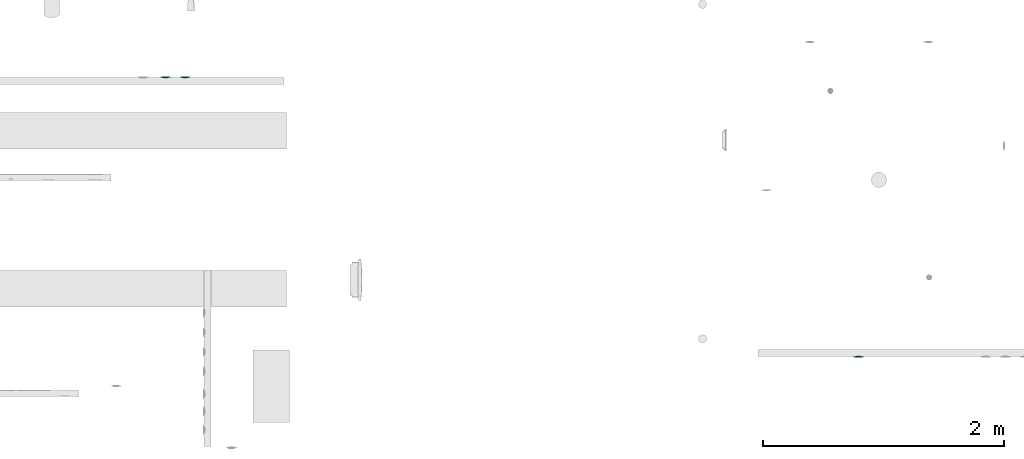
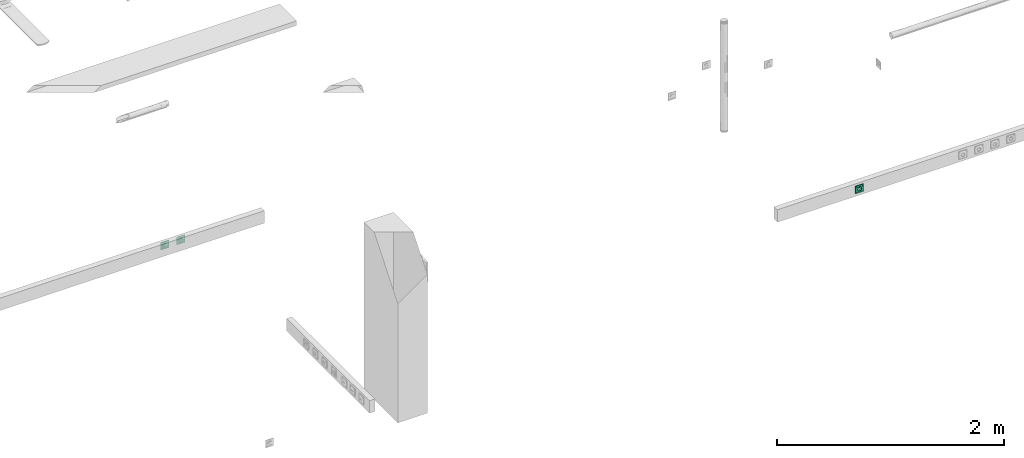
# One storey, part 77 of 166: 3 flow terminals.
"""IFC2X3 building model written with IfcOpenShell, lengths in metres."""

import ifcopenshell
import ifcopenshell.guid

model = None  # the IFC model being written
_history = None  # IfcOwnerHistory: only IFC2X3 demands one
_inside = {}  # id of a spatial element -> (the spatial element, [elements in it])
_under = {}  # id of a project, library or spatial element -> (it, [spatial elements below it])
_declared = {}  # id of a project -> (the project, [libraries it declares])
_typed = {}  # id of a type object -> (the type object, [elements of that type])
_made_of = {}  # id of a material, layer set ... -> (it, [elements and type objects made of it])


def new_model(schema):
    """Start an empty IFC model of exactly this schema.

    Asked for "IFC4X3", IfcOpenShell would pick the latest addendum, in which some entities
    have other attributes; the version numbers below select the first issue.
    IFC2X3 requires an IfcOwnerHistory on every rooted entity: one is made here for all.
    """
    global model, _history
    if schema == "IFC4X3":
        model = ifcopenshell.file(schema_version=(4, 3, 0, 0))
    else:
        model = ifcopenshell.file(schema=schema)
    _inside.clear()
    _under.clear()
    _declared.clear()
    _typed.clear()
    _made_of.clear()
    _history = None
    if model.schema == "IFC2X3":
        org = make("IfcOrganization", Name="unknown")
        user = make(
            "IfcPersonAndOrganization",
            ThePerson=make("IfcPerson", FamilyName="unknown"),
            TheOrganization=org,
        )
        app = make(
            "IfcApplication",
            ApplicationDeveloper=org,
            Version="unknown",
            ApplicationFullName="unknown",
            ApplicationIdentifier="unknown",
        )
        _history = make(
            "IfcOwnerHistory",
            OwningUser=user,
            OwningApplication=app,
            ChangeAction="ADDED",
            CreationDate=0,
        )
    return model


def make(cls, **values):
    """One entity of the class cls with the attributes given. An attribute that is None is left unset."""
    return model.create_entity(
        cls, **{name: value for name, value in values.items() if value is not None}
    )


def entity(cls, *values):
    """Any entity or typed value of the class cls, its attributes in the order of the schema. None: left unset."""
    e = model.create_entity(cls)
    for i, value in enumerate(values):
        if value is not None:
            e[i] = value
    return e


def rooted(cls, **values):
    """An entity with a GlobalId (a new one), such as an element, a storey or a relation."""
    return make(cls, GlobalId=ifcopenshell.guid.new(), OwnerHistory=_history, **values)


def si_unit(unit_type, name, prefix=None):
    """IfcSIUnit, for example si_unit("LENGTHUNIT", "METRE", prefix="MILLI")."""
    return make("IfcSIUnit", UnitType=unit_type, Prefix=prefix, Name=name)


def converted_unit(unit_type, name, factor, base, dimensions=None, offset=None):
    """IfcConversionBasedUnit, such as the inch: factor (a typed value) times the base unit."""
    return make(
        "IfcConversionBasedUnit"
        if offset is None
        else "IfcConversionBasedUnitWithOffset",
        ConversionOffset=offset,
        Dimensions=None
        if dimensions is None
        else entity("IfcDimensionalExponents", *dimensions),
        UnitType=unit_type,
        Name=name,
        ConversionFactor=make(
            "IfcMeasureWithUnit", ValueComponent=factor, UnitComponent=base
        ),
    )


def derived_unit(unit_type, elements):
    """IfcDerivedUnit: a product of units, each with its exponent."""
    return make(
        "IfcDerivedUnit",
        Elements=[
            make("IfcDerivedUnitElement", Unit=unit, Exponent=power)
            for unit, power in elements
        ],
        UnitType=unit_type,
    )


def assignment(units):
    """IfcUnitAssignment: the units of a project."""
    return None if units is None else make("IfcUnitAssignment", Units=units)


def point(xyz):
    """IfcCartesianPoint."""
    return None if xyz is None else make("IfcCartesianPoint", Coordinates=xyz)


def direction(xyz):
    """IfcDirection."""
    return None if xyz is None else make("IfcDirection", DirectionRatios=xyz)


def frame(location, z_axis=None, x_axis=None):
    """IfcAxis2Placement3D, a coordinate frame: its origin and axes. An axis left out is left unset."""
    return make(
        "IfcAxis2Placement3D",
        Location=point(location),
        Axis=direction(z_axis),
        RefDirection=direction(x_axis),
    )


def origin():
    """The frame at (0, 0, 0) with its axes left unset."""
    return frame((0.0, 0.0, 0.0))


def place(relative_to, where):
    """IfcLocalPlacement: puts the frame where relative to a parent placement (None: the world)."""
    return make(
        "IfcLocalPlacement", PlacementRelTo=relative_to, RelativePlacement=where
    )


def context(
    kind, dimensions, precision=None, world=None, true_north=None, identifier=None
):
    """IfcGeometricRepresentationContext, for example the 3D "Model" context."""
    return make(
        "IfcGeometricRepresentationContext",
        ContextIdentifier=identifier,
        ContextType=kind,
        CoordinateSpaceDimension=dimensions,
        Precision=precision,
        WorldCoordinateSystem=world,
        TrueNorth=true_north,
    )


def subcontext(parent, identifier, kind, view, scale=None):
    """IfcGeometricRepresentationSubContext, for example "Body" below "Model"."""
    return make(
        "IfcGeometricRepresentationSubContext",
        ContextIdentifier=identifier,
        ContextType=kind,
        ParentContext=parent,
        TargetScale=scale,
        TargetView=view,
    )


def project(units=None, contexts=None):
    """IfcProject with its units and contexts."""
    return rooted(
        "IfcProject",
        Name="project",
        RepresentationContexts=contexts,
        UnitsInContext=assignment(units),
    )


def spatial(cls, under=None, at=None, **own):
    """A site, building, storey or space (cls), placed at a placement, below another one or the project."""
    s = rooted(cls, ObjectPlacement=at, **own)
    if under is not None:
        _under.setdefault(under.id(), (under, []))[1].append(s)
    return s


def faces_of(points, faces, orient=None, outer=None):
    """IfcFace entities. A face is a list of loops; a loop is a list of indices into points, from 0.

    orient and outer hold one flag for each loop. By default every Orientation is true, the
    first loop of a face is its IfcFaceOuterBound and the others are IfcFaceBound.
    """
    made = []
    for i, loops in enumerate(faces):
        bounds = []
        for j, loop in enumerate(loops):
            is_outer = j == 0 if outer is None else outer[i][j]
            bounds.append(
                make(
                    "IfcFaceOuterBound" if is_outer else "IfcFaceBound",
                    Bound=make("IfcPolyLoop", Polygon=[points[k] for k in loop]),
                    Orientation=True if orient is None else orient[i][j],
                )
            )
        made.append(make("IfcFace", Bounds=bounds))
    return made


def face_set(faces, orient=None, outer=None):
    """The faces of one IfcConnectedFaceSet. surface_model builds it on its shared points."""
    return ("IfcConnectedFaceSet", faces, orient, outer)


def surface_model(cls, points, shells):
    """IfcFaceBasedSurfaceModel or IfcShellBasedSurfaceModel (cls): surfaces that need not close."""
    shared = [point(p) for p in points]
    made = [make(c, CfsFaces=faces_of(shared, fs, o, b)) for c, fs, o, b in shells]
    if cls == "IfcFaceBasedSurfaceModel":
        return make(cls, FbsmFaces=made)
    return make(cls, SbsmBoundary=made)


def shape(context_of_items, identifier, shape_type, items):
    """IfcShapeRepresentation: the items that make up one representation, for example the "Body"."""
    return make(
        "IfcShapeRepresentation",
        ContextOfItems=context_of_items,
        RepresentationIdentifier=identifier,
        RepresentationType=shape_type,
        Items=items,
    )


def source(mapping_origin, context_of_items, identifier, shape_type, items):
    """IfcRepresentationMap: a shape defined once, which mapped items show again and again."""
    return make(
        "IfcRepresentationMap",
        MappingOrigin=mapping_origin,
        MappedRepresentation=shape(context_of_items, identifier, shape_type, items),
    )


def transform(
    local_origin,
    x_axis=None,
    y_axis=None,
    z_axis=None,
    scale=None,
    scale2=None,
    scale3=None,
    uniform=True,
):
    """IfcCartesianTransformationOperator3D, or its non-uniform kind. x_axis, y_axis, z_axis: its Axis1, 2, 3."""
    if uniform:
        return make(
            "IfcCartesianTransformationOperator3D",
            Axis1=direction(x_axis),
            Axis2=direction(y_axis),
            LocalOrigin=point(local_origin),
            Scale=scale,
            Axis3=direction(z_axis),
        )
    return make(
        "IfcCartesianTransformationOperator3DnonUniform",
        Axis1=direction(x_axis),
        Axis2=direction(y_axis),
        LocalOrigin=point(local_origin),
        Scale=scale,
        Axis3=direction(z_axis),
        Scale2=scale2,
        Scale3=scale3,
    )


def mapped(mapping_source, mapping_target):
    """IfcMappedItem: shows the shape of a source again, moved by a transform."""
    return make(
        "IfcMappedItem", MappingSource=mapping_source, MappingTarget=mapping_target
    )


def made_of(thing, what):
    """Note that an element or type object is made of a material, layer set ...; save() writes the relation."""
    if what is not None:
        _made_of.setdefault(what.id(), (what, []))[1].append(thing)
    return thing


def type_object(cls, material=None, **own):
    """A type object (cls), such as IfcWallType, which elements share."""
    return made_of(rooted(cls, **own), material)


def type_shapes(of_type, sources):
    """Give a type object the sources (RepresentationMaps) that its elements show as mapped items."""
    of_type.RepresentationMaps = sources


def element(
    cls,
    number,
    at=None,
    inside=None,
    cuts=None,
    type_object=None,
    material=None,
    context=None,
    identifier="Body",
    shape_type=None,
    held_by="IfcProductDefinitionShape",
    body=None,
    shapes=None,
    **own,
):
    """One element of the class cls, such as IfcWall. Its Tag is "e" and its number.

    at: its placement. inside: the storey or other place that contains it. cuts: it is an
    opening in that element (IfcRelVoidsElement). A single representation is given by context,
    identifier, shape_type and body (its items); several are given by shapes. held_by: the class
    of the entity that holds the representations. save() writes the other relations.
    """
    e = rooted(cls, Tag="e%d" % number, ObjectPlacement=at, **own)
    if body is not None:
        shapes = [shape(context, identifier, shape_type, body)]
    if shapes is not None:
        e.Representation = make(held_by, Representations=shapes)
    if inside is not None:
        _inside.setdefault(inside.id(), (inside, []))[1].append(e)
    if cuts is not None:
        rooted(
            "IfcRelVoidsElement", RelatingBuildingElement=cuts, RelatedOpeningElement=e
        )
    if type_object is not None:
        _typed.setdefault(type_object.id(), (type_object, []))[1].append(e)
    return made_of(e, material)


def aggregate(whole, parts):
    """IfcRelAggregates: a whole, such as a stair, and the parts it consists of."""
    return rooted("IfcRelAggregates", RelatingObject=whole, RelatedObjects=parts)


def save(model, path):
    """Write the relations noted so far, then the file.

    IfcRelAggregates (storeys below a building ...), IfcRelContainedInSpatialStructure (elements
    in a storey), IfcRelDefinesByType, IfcRelAssociatesMaterial and IfcRelDeclares: one each for
    every whole, place, type object, material and project.
    """
    for whole, parts in _under.values():
        aggregate(whole, parts)
    for where, things in _inside.values():
        rooted(
            "IfcRelContainedInSpatialStructure",
            RelatedElements=things,
            RelatingStructure=where,
        )
    for kind, things in _typed.values():
        rooted("IfcRelDefinesByType", RelatedObjects=things, RelatingType=kind)
    for what, things in _made_of.values():
        rooted("IfcRelAssociatesMaterial", RelatedObjects=things, RelatingMaterial=what)
    for by, libraries in _declared.values():
        rooted("IfcRelDeclares", RelatingContext=by, RelatedDefinitions=libraries)
    model.write(path)


model = new_model("IFC2X3")

# Units and contexts
model_context = context("Model", 3, precision=1e-05, world=origin(), true_north=direction((6.12303176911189e-17, 1.0)))
body_context = subcontext(model_context, "Body", "Model", "MODEL_VIEW")
ifc_project = project(units=[si_unit("LENGTHUNIT", "METRE"), si_unit("AREAUNIT", "SQUARE_METRE"), si_unit("VOLUMEUNIT", "CUBIC_METRE"), converted_unit("PLANEANGLEUNIT", "DEGREE", entity("IfcRatioMeasure", 0.0174532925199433), si_unit("PLANEANGLEUNIT", "RADIAN"), dimensions=[0, 0, 0, 0, 0, 0, 0]), si_unit("MASSUNIT", "GRAM", prefix="KILO"), derived_unit("MASSDENSITYUNIT", [(si_unit("MASSUNIT", "GRAM", prefix="KILO"), 1), (si_unit("LENGTHUNIT", "METRE"), -3)]), si_unit("TIMEUNIT", "SECOND"), si_unit("FREQUENCYUNIT", "HERTZ"), si_unit("THERMODYNAMICTEMPERATUREUNIT", "DEGREE_CELSIUS"), derived_unit("THERMALTRANSMITTANCEUNIT", [(si_unit("MASSUNIT", "GRAM", prefix="KILO"), 1), (si_unit("THERMODYNAMICTEMPERATUREUNIT", "KELVIN"), -1), (si_unit("TIMEUNIT", "SECOND"), -3)]), derived_unit("VOLUMETRICFLOWRATEUNIT", [(si_unit("LENGTHUNIT", "METRE"), 3), (si_unit("TIMEUNIT", "SECOND"), -1)]), si_unit("ELECTRICCURRENTUNIT", "AMPERE"), si_unit("ELECTRICVOLTAGEUNIT", "VOLT"), si_unit("POWERUNIT", "WATT"), si_unit("FORCEUNIT", "NEWTON"), si_unit("ILLUMINANCEUNIT", "LUX"), si_unit("LUMINOUSFLUXUNIT", "LUMEN"), si_unit("LUMINOUSINTENSITYUNIT", "CANDELA"), derived_unit("USERDEFINED", [(si_unit("MASSUNIT", "GRAM", prefix="KILO"), -1), (si_unit("LENGTHUNIT", "METRE"), -2), (si_unit("TIMEUNIT", "SECOND"), 3), (si_unit("LUMINOUSFLUXUNIT", "LUMEN"), 1)]), derived_unit("LINEARVELOCITYUNIT", [(si_unit("LENGTHUNIT", "METRE"), 1), (si_unit("TIMEUNIT", "SECOND"), -1)]), si_unit("PRESSUREUNIT", "PASCAL"), derived_unit("USERDEFINED", [(si_unit("LENGTHUNIT", "METRE"), -2), (si_unit("MASSUNIT", "GRAM", prefix="KILO"), 1), (si_unit("TIMEUNIT", "SECOND"), -2)])], contexts=[model_context])

# Site, building, storey
site_placement = place(None, origin())
site = spatial("IfcSite", under=ifc_project, at=site_placement, Name="Default", CompositionType="ELEMENT")
building_placement = place(site_placement, origin())
building = spatial("IfcBuilding", under=site, at=building_placement, CompositionType="ELEMENT")
storey_placement = place(building_placement, frame((0.0, 0.0, 4.27)))
storey = spatial("IfcBuildingStorey", under=building, at=storey_placement, Name="01", CompositionType="ELEMENT", Elevation=4.27)

# Flow terminals
light_fixture_type = type_object("IfcLightFixtureType", Name="PC IP20", PredefinedType="NOTDEFINED")
shared_shape = source(origin(), body_context, "Body", "SurfaceModel", [
    surface_model("IfcFaceBasedSurfaceModel", [(-0.00225000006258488, 0.0127499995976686, 0.00949633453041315), (0.0, 0.0104999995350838, 0.00949633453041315), (0.0, 0.0115376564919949, 0.0101656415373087), (0.0, 0.0139623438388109, 0.0101656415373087), (0.0, 0.0144589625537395, 0.00984531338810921), (0.0, 0.0121178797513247, 0.0102778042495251), (0.0, 0.0133821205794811, 0.0102778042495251), (0.0, 0.0127499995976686, 0.010399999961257), (0.0, 0.0149999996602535, 0.00949633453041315), (0.00225000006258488, 0.0127499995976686, 0.00949633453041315), (0.0, 0.0110410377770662, 0.00984531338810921), (0.0, 0.0127499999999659, 0.00949633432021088), (0.00225000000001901, 0.0127499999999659, 0.00949633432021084), (0.00217333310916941, 0.0121676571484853, 0.00949633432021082), (0.00194855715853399, 0.0116249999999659, 0.00949633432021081), (0.00159099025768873, 0.0111590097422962, 0.00949633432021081), (0.001125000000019, 0.010801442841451, 0.00949633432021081), (0.00058234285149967, 0.0105766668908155, 0.00949633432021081), (0.0, 0.0104999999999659, 0.00949633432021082), (-0.000582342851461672, 0.0105766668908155, 0.00949633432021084), (-0.001124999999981, 0.010801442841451, 0.00949633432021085), (-0.00159099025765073, 0.0111590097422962, 0.00949633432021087), (-0.00194855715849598, 0.011624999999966, 0.00949633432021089), (-0.0021733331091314, 0.0121676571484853, 0.00949633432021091), (-0.00224999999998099, 0.012749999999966, 0.00949633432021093), (-0.00217333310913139, 0.0133323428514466, 0.00949633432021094), (-0.00194855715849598, 0.013874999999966, 0.00949633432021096), (-0.00159099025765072, 0.0143409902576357, 0.00949633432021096), (-0.00112499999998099, 0.0146985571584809, 0.00949633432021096), (-0.00058234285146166, 0.0149233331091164, 0.00949633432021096), (0.0, 0.0149999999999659, 0.00949633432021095), (0.000582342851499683, 0.0149233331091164, 0.00949633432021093), (0.00112500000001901, 0.0146985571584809, 0.00949633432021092), (0.00159099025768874, 0.0143409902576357, 0.00949633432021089), (0.001948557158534, 0.0138749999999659, 0.00949633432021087), (0.00217333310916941, 0.0133323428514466, 0.00949633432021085), (0.00225000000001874, 0.0127499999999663, -0.00360000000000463), (0.00217333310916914, 0.0121676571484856, -0.00360000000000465), (0.00194855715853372, 0.0116249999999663, -0.00360000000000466), (0.00159099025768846, 0.0111590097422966, -0.00360000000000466), (0.00112500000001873, 0.0108014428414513, -0.00360000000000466), (0.000582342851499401, 0.0105766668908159, -0.00360000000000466), (0.0, 0.0104999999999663, -0.00360000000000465), (-0.000582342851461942, 0.0105766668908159, -0.00360000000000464), (-0.00112499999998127, 0.0108014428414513, -0.00360000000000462), (-0.001590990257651, 0.0111590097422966, -0.0036000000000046), (-0.00194855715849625, 0.0116249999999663, -0.00360000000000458), (-0.00217333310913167, 0.0121676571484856, -0.00360000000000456), (-0.00224999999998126, 0.0127499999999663, -0.00360000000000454), (-0.00217333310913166, 0.013332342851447, -0.00360000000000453), (-0.00194855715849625, 0.0138749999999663, -0.00360000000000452), (-0.00159099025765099, 0.014340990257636, -0.00360000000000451), (-0.00112499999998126, 0.0146985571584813, -0.00360000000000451), (-0.000582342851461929, 0.0149233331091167, -0.00360000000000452), (0.0, 0.0149999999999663, -0.00360000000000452), (0.000582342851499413, 0.0149233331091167, -0.00360000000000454), (0.00112500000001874, 0.0146985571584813, -0.00360000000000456), (0.00159099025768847, 0.014340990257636, -0.00360000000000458), (0.00194855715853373, 0.0138749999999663, -0.0036000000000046), (0.00217333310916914, 0.013332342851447, -0.00360000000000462), (0.0270000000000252, 0.026999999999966, 0.0113999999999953), (-0.0269999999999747, 0.026999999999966, 0.0113999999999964), (-0.0269999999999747, -0.0270000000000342, 0.0113999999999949), (0.0270000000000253, -0.0270000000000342, 0.0113999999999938), (-0.0199999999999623, 0.0, 0.0113999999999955), (-0.0193185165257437, -0.00517638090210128, 0.0113999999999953), (-0.0173205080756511, -0.0100000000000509, 0.0113999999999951), (-0.0141421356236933, -0.0141421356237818, 0.011399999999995), (-0.00999999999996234, -0.0173205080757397, 0.0113999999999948), (-0.00517638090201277, -0.0193185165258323, 0.0113999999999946), (0.0, -0.0200000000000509, 0.0113999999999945), (0.00517638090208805, -0.0193185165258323, 0.0113999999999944), (0.0100000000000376, -0.0173205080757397, 0.0113999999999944), (0.0141421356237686, -0.0141421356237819, 0.0113999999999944), (0.0173205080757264, -0.010000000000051, 0.0113999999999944), (0.0193185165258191, -0.00517638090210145, 0.0113999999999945), (0.0200000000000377, 0.0, 0.0113999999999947), (0.0193185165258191, 0.00517638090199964, 0.0113999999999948), (0.0173205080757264, 0.0099999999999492, 0.011399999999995), (0.0141421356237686, 0.0141421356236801, 0.0113999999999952), (0.0100000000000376, 0.0173205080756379, 0.0113999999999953), (0.00517638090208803, 0.0193185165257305, 0.0113999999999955), (0.0, 0.0199999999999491, 0.0113999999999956), (-0.00517638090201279, 0.0193185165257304, 0.0113999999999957), (-0.00999999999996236, 0.0173205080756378, 0.0113999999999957), (-0.0141421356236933, 0.01414213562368, 0.0113999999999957), (-0.0173205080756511, 0.00999999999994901, 0.0113999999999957), (-0.0193185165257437, 0.00517638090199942, 0.0113999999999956), (0.0270000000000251, 0.0269999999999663, 0.00199999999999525), (0.0270000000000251, -0.0270000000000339, 0.00199999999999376), (-0.0269999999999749, -0.0270000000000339, 0.00199999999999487), (-0.0269999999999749, 0.0269999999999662, 0.00199999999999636), (0.0210000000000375, 0.0, 0.00199999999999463), (0.0202844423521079, -0.00543519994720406, 0.00199999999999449), (0.0181865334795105, -0.0105000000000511, 0.0019999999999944), (0.0148492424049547, -0.0148492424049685, 0.00199999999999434), (0.0105000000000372, -0.0181865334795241, 0.00199999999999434), (0.0054351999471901, -0.0202844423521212, 0.00199999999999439), (0.0, -0.0210000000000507, 0.00199999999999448), (-0.00543519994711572, -0.020284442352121, 0.00199999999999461), (-0.0104999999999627, -0.0181865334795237, 0.00199999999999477), (-0.0148492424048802, -0.014849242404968, 0.00199999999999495), (-0.0181865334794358, -0.0105000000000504, 0.00199999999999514), (-0.020284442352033, -0.00543519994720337, 0.00199999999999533), (-0.0209999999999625, 0.0, 0.00199999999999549), (-0.0202844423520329, 0.0054351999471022, 0.00199999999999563), (-0.0181865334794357, 0.0104999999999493, 0.00199999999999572), (-0.01484924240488, 0.0148492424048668, 0.00199999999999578), (-0.0104999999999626, 0.0181865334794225, 0.00199999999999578), (-0.00543519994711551, 0.0202844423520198, 0.00199999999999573), (0.0, 0.0209999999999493, 0.00199999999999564), (0.00543519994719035, 0.0202844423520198, 0.00199999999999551), (0.0105000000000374, 0.0181865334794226, 0.00199999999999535), (0.0148492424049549, 0.0148492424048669, 0.00199999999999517), (0.0181865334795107, 0.0104999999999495, 0.00199999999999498), (0.0202844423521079, 0.00543519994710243, 0.00199999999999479), (0.0200000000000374, 0.0, -0.00360000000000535), (0.0193185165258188, -0.00517638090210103, -0.00360000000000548), (0.0173205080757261, -0.0100000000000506, -0.00360000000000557), (0.0141421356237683, -0.0141421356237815, -0.00360000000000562), (0.0100000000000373, -0.0173205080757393, -0.00360000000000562), (0.00517638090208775, -0.0193185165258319, -0.00360000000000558), (0.0, -0.0200000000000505, -0.00360000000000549), (-0.00517638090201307, -0.0193185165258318, -0.00360000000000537), (-0.00999999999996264, -0.0173205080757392, -0.00360000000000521), (-0.0141421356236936, -0.0141421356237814, -0.00360000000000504), (-0.0173205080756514, -0.0100000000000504, -0.00360000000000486), (-0.019318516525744, -0.00517638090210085, -0.00360000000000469), (-0.0199999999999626, 0.0, -0.00360000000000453), (-0.0193185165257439, 0.00517638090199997, -0.0036000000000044), (-0.0173205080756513, 0.00999999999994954, -0.00360000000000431), (-0.0141421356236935, 0.0141421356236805, -0.00360000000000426), (-0.00999999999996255, 0.0173205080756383, -0.00360000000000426), (-0.00517638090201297, 0.0193185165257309, -0.0036000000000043), (0.0, 0.0199999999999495, -0.00360000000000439), (0.00517638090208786, 0.0193185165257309, -0.00360000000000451), (0.0100000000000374, 0.0173205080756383, -0.00360000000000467), (0.0141421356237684, 0.0141421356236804, -0.00360000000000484), (0.0173205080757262, 0.0099999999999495, -0.00360000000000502), (0.0193185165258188, 0.00517638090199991, -0.00360000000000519), (-0.0123499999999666, 0.0, -0.00360000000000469), (-0.0122562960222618, -0.000711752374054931, -0.00360000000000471), (-0.0119815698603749, -0.00137500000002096, -0.00360000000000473), (-0.0115445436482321, -0.00194454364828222, -0.00360000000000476), (-0.0109749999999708, -0.00238156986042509, -0.00360000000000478), (-0.0103117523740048, -0.00265629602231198, -0.0036000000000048), (-0.00959999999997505, -0.00275000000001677, -0.00360000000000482), (-0.0088882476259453, -0.00265629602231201, -0.00360000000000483), (-0.00822499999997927, -0.00238156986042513, -0.00360000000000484), (-0.00765545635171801, -0.00194454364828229, -0.00360000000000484), (-0.00721843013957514, -0.00137500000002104, -0.00360000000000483), (-0.00694370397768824, -0.000711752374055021, -0.00360000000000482), (-0.00684999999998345, 0.0, -0.0036000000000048), (-0.00694370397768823, 0.000711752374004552, -0.00360000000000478), (-0.00721843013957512, 0.00137499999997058, -0.00360000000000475), (-0.00765545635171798, 0.00194454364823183, -0.00360000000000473), (-0.00822499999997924, 0.00238156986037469, -0.0036000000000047), (-0.00888824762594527, 0.00265629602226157, -0.00360000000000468), (-0.00959999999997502, 0.00274999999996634, -0.00360000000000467), (-0.0103117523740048, 0.00265629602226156, -0.00360000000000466), (-0.0109749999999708, 0.00238156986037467, -0.00360000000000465), (-0.011544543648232, 0.00194454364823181, -0.00360000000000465), (-0.0119815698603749, 0.00137499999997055, -0.00360000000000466), (-0.0122562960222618, 0.000711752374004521, -0.00360000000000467), (0.00685000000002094, 0.0, -0.00360000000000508), (0.0069437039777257, -0.00071175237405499, -0.0036000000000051), (0.00721843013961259, -0.00137500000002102, -0.00360000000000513), (0.00765545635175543, -0.00194454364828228, -0.00360000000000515), (0.00822500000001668, -0.00238156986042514, -0.00360000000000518), (0.00888824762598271, -0.00265629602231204, -0.0036000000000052), (0.00960000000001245, -0.00275000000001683, -0.00360000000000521), (0.0103117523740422, -0.00265629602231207, -0.00360000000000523), (0.0109750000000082, -0.00238156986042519, -0.00360000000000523), (0.0115445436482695, -0.00194454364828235, -0.00360000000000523), (0.0119815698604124, -0.0013750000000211, -0.00360000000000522), (0.0122562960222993, -0.00071175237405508, -0.00360000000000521), (0.012350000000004, 0.0, -0.00360000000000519), (0.0122562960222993, 0.000711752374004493, -0.00360000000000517), (0.0119815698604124, 0.00137499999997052, -0.00360000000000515), (0.0115445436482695, 0.00194454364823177, -0.00360000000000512), (0.0109750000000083, 0.00238156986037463, -0.0036000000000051), (0.0103117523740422, 0.00265629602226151, -0.00360000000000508), (0.00960000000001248, 0.00274999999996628, -0.00360000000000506), (0.00888824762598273, 0.0026562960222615, -0.00360000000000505), (0.0082250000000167, 0.00238156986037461, -0.00360000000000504), (0.00765545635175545, 0.00194454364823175, -0.00360000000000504), (0.0072184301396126, 0.00137499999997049, -0.00360000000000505), (0.00694370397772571, 0.000711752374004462, -0.00360000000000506), (0.0210000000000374, 0.0, -0.00460000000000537), (0.0202844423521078, -0.00543519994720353, -0.00460000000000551), (0.0181865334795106, -0.0105000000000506, -0.0046000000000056), (0.0148492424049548, -0.0148492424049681, -0.00460000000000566), (0.0105000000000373, -0.0181865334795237, -0.00460000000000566), (0.00543519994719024, -0.0202844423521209, -0.00460000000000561), (0.0, -0.0210000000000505, -0.00460000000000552), (-0.00543519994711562, -0.0202844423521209, -0.00460000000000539), (-0.0104999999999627, -0.0181865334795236, -0.00460000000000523), (-0.0148492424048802, -0.0148492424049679, -0.00460000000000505), (-0.0181865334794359, -0.0105000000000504, -0.00460000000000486), (-0.0202844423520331, -0.00543519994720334, -0.00460000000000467), (-0.0209999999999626, 0.0, -0.00460000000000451), (-0.020284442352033, 0.00543519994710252, -0.00460000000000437), (-0.0181865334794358, 0.0104999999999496, -0.00460000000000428), (-0.0148492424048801, 0.0148492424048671, -0.00460000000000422), (-0.0104999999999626, 0.0181865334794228, -0.00460000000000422), (-0.00543519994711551, 0.02028444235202, -0.00460000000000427), (0.0, 0.0209999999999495, -0.00460000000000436), (0.00543519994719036, 0.02028444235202, -0.00460000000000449), (0.0105000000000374, 0.0181865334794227, -0.00460000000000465), (0.0148492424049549, 0.014849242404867, -0.00460000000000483), (0.0181865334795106, 0.0104999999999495, -0.00460000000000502), (0.0202844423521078, 0.00543519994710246, -0.00460000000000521), (-0.00684999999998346, 0.0, -0.0046000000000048), (-0.00694370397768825, 0.000711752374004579, -0.00460000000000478), (-0.00721843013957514, 0.00137499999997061, -0.00460000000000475), (-0.007655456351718, 0.00194454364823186, -0.00460000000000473), (-0.00822499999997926, 0.00238156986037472, -0.0046000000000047), (-0.00888824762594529, 0.0026562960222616, -0.00460000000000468), (-0.00959999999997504, 0.00274999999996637, -0.00460000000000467), (-0.0103117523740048, 0.00265629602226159, -0.00460000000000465), (-0.0109749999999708, 0.0023815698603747, -0.00460000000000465), (-0.0115445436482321, 0.00194454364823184, -0.00460000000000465), (-0.0119815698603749, 0.00137499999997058, -0.00460000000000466), (-0.0122562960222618, 0.000711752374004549, -0.00460000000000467), (-0.0123499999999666, 0.0, -0.00460000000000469), (-0.0122562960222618, -0.000711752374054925, -0.00460000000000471), (-0.0119815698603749, -0.00137500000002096, -0.00460000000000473), (-0.0115445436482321, -0.00194454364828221, -0.00460000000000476), (-0.0109749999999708, -0.00238156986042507, -0.00460000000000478), (-0.0103117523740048, -0.00265629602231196, -0.0046000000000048), (-0.00959999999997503, -0.00275000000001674, -0.00460000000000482), (-0.00888824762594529, -0.00265629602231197, -0.00460000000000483), (-0.00822499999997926, -0.00238156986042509, -0.00460000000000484), (-0.007655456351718, -0.00194454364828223, -0.00460000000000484), (-0.00721843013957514, -0.00137500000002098, -0.00460000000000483), (-0.00694370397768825, -0.000711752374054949, -0.00460000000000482), (0.012350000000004, 0.0, -0.00460000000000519), (0.0122562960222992, 0.000711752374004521, -0.00460000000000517), (0.0119815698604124, 0.00137499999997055, -0.00460000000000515), (0.0115445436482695, 0.0019445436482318, -0.00460000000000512), (0.0109750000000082, 0.00238156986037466, -0.0046000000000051), (0.0103117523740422, 0.00265629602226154, -0.00460000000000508), (0.00960000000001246, 0.00274999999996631, -0.00460000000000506), (0.00888824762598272, 0.00265629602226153, -0.00460000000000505), (0.00822500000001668, 0.00238156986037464, -0.00460000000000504), (0.00765545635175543, 0.00194454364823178, -0.00460000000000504), (0.00721843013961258, 0.00137499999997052, -0.00460000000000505), (0.00694370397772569, 0.00071175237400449, -0.00460000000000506), (0.00685000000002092, 0.0, -0.00460000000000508), (0.00694370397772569, -0.000711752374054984, -0.0046000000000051), (0.00721843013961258, -0.00137500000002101, -0.00460000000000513), (0.00765545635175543, -0.00194454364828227, -0.00460000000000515), (0.00822500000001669, -0.00238156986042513, -0.00460000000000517), (0.00888824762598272, -0.00265629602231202, -0.0046000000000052), (0.00960000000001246, -0.0027500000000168, -0.00460000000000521), (0.0103117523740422, -0.00265629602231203, -0.00460000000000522), (0.0109750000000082, -0.00238156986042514, -0.00460000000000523), (0.0115445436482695, -0.00194454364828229, -0.00460000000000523), (0.0119815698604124, -0.00137500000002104, -0.00460000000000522), (0.0122562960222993, -0.000711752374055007, -0.00460000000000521), (0.040350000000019, 0.0403499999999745, 0.00659999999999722), (0.040350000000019, -0.0403500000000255, 0.00659999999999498), (-0.0403499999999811, -0.0403500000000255, 0.00659999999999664), (-0.0403499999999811, 0.0403499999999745, 0.00659999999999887), (0.027000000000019, 0.0269999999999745, 0.00659999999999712), (-0.0269999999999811, 0.0269999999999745, 0.00659999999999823), (-0.026999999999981, -0.0270000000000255, 0.00659999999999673), (0.027000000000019, -0.0270000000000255, 0.00659999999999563), (0.027000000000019, 0.0269999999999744, 0.0103999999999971), (-0.026999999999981, 0.0269999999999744, 0.0103999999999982), (-0.026999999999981, -0.0270000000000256, 0.0103999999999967), (0.027000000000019, -0.0270000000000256, 0.0103999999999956), (0.040350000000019, 0.0403499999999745, 0.00659999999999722), (0.040350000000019, -0.0403500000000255, 0.00659999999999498), (-0.0403499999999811, -0.0403500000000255, 0.00659999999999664), (-0.0403499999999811, 0.0403499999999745, 0.00659999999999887), (-0.0269999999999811, 0.0269999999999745, 0.00659999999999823), (-0.0269999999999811, -0.0270000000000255, 0.00659999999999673), (0.0270000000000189, -0.0270000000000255, 0.00659999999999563), (0.0270000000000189, 0.0269999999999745, 0.00659999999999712), (0.0403500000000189, 0.0403499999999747, 0.0), (0.0403500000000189, -0.0403500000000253, 0.0), (-0.0403499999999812, -0.0403500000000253, 0.0), (-0.0403499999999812, 0.0403499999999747, 0.0), (0.0270000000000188, 0.0269999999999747, 0.0), (-0.0269999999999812, 0.0269999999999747, 0.0), (-0.0269999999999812, -0.0270000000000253, 0.0), (0.0270000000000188, -0.0270000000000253, 0.0)], [face_set([[[0, 1, 2]], [[3, 4, 2, 5]], [[6, 3, 5, 7]], [[2, 4, 0]], [[4, 8, 0]], [[3, 9, 8]], [[1, 9, 10]], [[2, 3, 6, 7]], [[3, 10, 9]], [[2, 10, 3]], [[11, 1, 0, 8]], [[11, 8, 9, 1]]]), face_set([[[12, 13, 14, 15, 16, 17, 18, 19, 20, 21, 22, 23, 24, 25, 26, 27, 28, 29, 30, 31, 32, 33, 34, 35]], [[36, 37, 38, 39, 40, 41, 42, 43, 44, 45, 46, 47, 48, 49, 50, 51, 52, 53, 54, 55, 56, 57, 58, 59]], [[48, 47, 23, 24]], [[47, 46, 22, 23]], [[45, 44, 20, 21]], [[46, 45, 21, 22]], [[44, 43, 19, 20]], [[18, 19, 43, 42]], [[42, 41, 17, 18]], [[41, 40, 16, 17]], [[39, 38, 14, 15]], [[40, 39, 15, 16]], [[38, 37, 13, 14]], [[12, 13, 37, 36]], [[36, 59, 35, 12]], [[59, 58, 34, 35]], [[57, 56, 32, 33]], [[58, 57, 33, 34]], [[56, 55, 31, 32]], [[30, 31, 55, 54]], [[54, 53, 29, 30]], [[53, 52, 28, 29]], [[51, 50, 26, 27]], [[52, 51, 27, 28]], [[50, 49, 25, 26]], [[24, 25, 49, 48]]]), face_set([[[60, 61, 62, 63], [64, 65, 66, 67, 68, 69, 70, 71, 72, 73, 74, 75, 76, 77, 78, 79, 80, 81, 82, 83, 84, 85, 86, 87]], [[88, 89, 90, 91], [92, 93, 94, 95, 96, 97, 98, 99, 100, 101, 102, 103, 104, 105, 106, 107, 108, 109, 110, 111, 112, 113, 114, 115]], [[61, 60, 88, 91]], [[62, 61, 91, 90]], [[63, 62, 90, 89]], [[60, 63, 89, 88]], [[116, 117, 118, 119, 120, 121, 122, 123, 124, 125, 126, 127, 128, 129, 130, 131, 132, 133, 134, 135, 136, 137, 138, 139], [140, 141, 142, 143, 144, 145, 146, 147, 148, 149, 150, 151, 152, 153, 154, 155, 156, 157, 158, 159, 160, 161, 162, 163], [164, 165, 166, 167, 168, 169, 170, 171, 172, 173, 174, 175, 176, 177, 178, 179, 180, 181, 182, 183, 184, 185, 186, 187]], [[64, 128, 127, 65]], [[65, 127, 126, 66]], [[67, 125, 124, 68]], [[66, 126, 125, 67]], [[68, 124, 123, 69]], [[122, 70, 69, 123]], [[70, 122, 121, 71]], [[71, 121, 120, 72]], [[73, 119, 118, 74]], [[72, 120, 119, 73]], [[74, 118, 117, 75]], [[116, 76, 75, 117]], [[76, 116, 139, 77]], [[77, 139, 138, 78]], [[79, 137, 136, 80]], [[78, 138, 137, 79]], [[80, 136, 135, 81]], [[134, 82, 81, 135]], [[82, 134, 133, 83]], [[83, 133, 132, 84]], [[84, 132, 131, 85]], [[85, 131, 130, 86]], [[130, 129, 87, 86]], [[64, 87, 129, 128]], [[188, 189, 190, 191, 192, 193, 194, 195, 196, 197, 198, 199, 200, 201, 202, 203, 204, 205, 206, 207, 208, 209, 210, 211], [212, 213, 214, 215, 216, 217, 218, 219, 220, 221, 222, 223, 224, 225, 226, 227, 228, 229, 230, 231, 232, 233, 234, 235], [236, 237, 238, 239, 240, 241, 242, 243, 244, 245, 246, 247, 248, 249, 250, 251, 252, 253, 254, 255, 256, 257, 258, 259]], [[200, 199, 103, 104]], [[199, 198, 102, 103]], [[197, 196, 100, 101]], [[198, 197, 101, 102]], [[196, 195, 99, 100]], [[98, 99, 195, 194]], [[194, 193, 97, 98]], [[193, 192, 96, 97]], [[191, 190, 94, 95]], [[192, 191, 95, 96]], [[190, 189, 93, 94]], [[92, 93, 189, 188]], [[188, 211, 115, 92]], [[211, 210, 114, 115]], [[209, 208, 112, 113]], [[210, 209, 113, 114]], [[208, 207, 111, 112]], [[110, 111, 207, 206]], [[206, 205, 109, 110]], [[205, 204, 108, 109]], [[203, 202, 106, 107]], [[204, 203, 107, 108]], [[202, 201, 105, 106]], [[104, 105, 201, 200]], [[141, 225, 226, 142]], [[140, 224, 225, 141]], [[144, 228, 229, 145]], [[143, 227, 228, 144]], [[142, 226, 227, 143]], [[230, 146, 145, 229]], [[149, 233, 232, 148]], [[148, 232, 231, 147]], [[152, 212, 235, 151]], [[151, 235, 234, 150]], [[150, 234, 233, 149]], [[146, 230, 231, 147]], [[154, 214, 213, 153]], [[153, 213, 212, 152]], [[157, 217, 216, 156]], [[156, 216, 215, 155]], [[155, 215, 214, 154]], [[218, 158, 157, 217]], [[160, 220, 221, 161]], [[159, 219, 220, 160]], [[163, 223, 224, 140]], [[162, 222, 223, 163]], [[161, 221, 222, 162]], [[158, 218, 219, 159]], [[166, 250, 249, 165]], [[165, 249, 248, 164]], [[169, 253, 252, 168]], [[168, 252, 251, 167]], [[167, 251, 250, 166]], [[254, 170, 169, 253]], [[172, 256, 257, 173]], [[171, 255, 256, 172]], [[175, 259, 236, 176]], [[174, 258, 259, 175]], [[173, 257, 258, 174]], [[170, 254, 255, 171]], [[177, 237, 238, 178]], [[176, 236, 237, 177]], [[180, 240, 241, 181]], [[179, 239, 240, 180]], [[178, 238, 239, 179]], [[242, 182, 181, 241]], [[185, 245, 244, 184]], [[184, 244, 243, 183]], [[164, 248, 247, 187]], [[187, 247, 246, 186]], [[186, 246, 245, 185]], [[182, 242, 243, 183]]]), face_set([[[260, 261, 262, 263], [264, 265, 266, 267]], [[260, 268, 269, 263]], [[263, 269, 270, 262]], [[262, 270, 271, 261]], [[261, 271, 268, 260]], [[264, 265, 269, 268]], [[265, 266, 270, 269]], [[266, 267, 271, 270]], [[268, 271, 267, 264]]]), face_set([[[272, 273, 274, 275], [276, 277, 278, 279]], [[280, 281, 282, 283], [284, 285, 286, 287]], [[275, 272, 280, 283]], [[274, 275, 283, 282]], [[273, 274, 282, 281]], [[272, 273, 281, 280]], [[284, 285, 276, 279]], [[285, 286, 277, 276]], [[286, 287, 278, 277]], [[279, 278, 287, 284]]])]),
])
type_shapes(light_fixture_type, [shared_shape])
for number, where, z_axis, x_axis in (
    (1, (40.6757868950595, -187.64877847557, 4.70800000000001), (0.0, 1.0, 0.0), (-1.0, 0.0, 0.0)),
    (2, (40.5127868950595, -187.64877847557, 4.70800000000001), (0.0, 1.0, 0.0), (-1.0, 0.0, 0.0)),
    (3, (46.2530039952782, -189.956744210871, 4.70800000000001), (0.0, -1.0, 0.0), (1.0, 0.0, 0.0)),
):
    element("IfcFlowTerminal", number, at=place(building_placement, frame(where, z_axis=z_axis, x_axis=x_axis)), inside=storey, type_object=light_fixture_type, Name="INT Prise de courant:PC IP20", ObjectType="INT Prise de courant:PC IP20", context=body_context, shape_type="MappedRepresentation", body=[
        mapped(shared_shape, transform((0.0, 0.0, 0.0), scale=1.0)),
    ])

save(model, "model.ifc")
